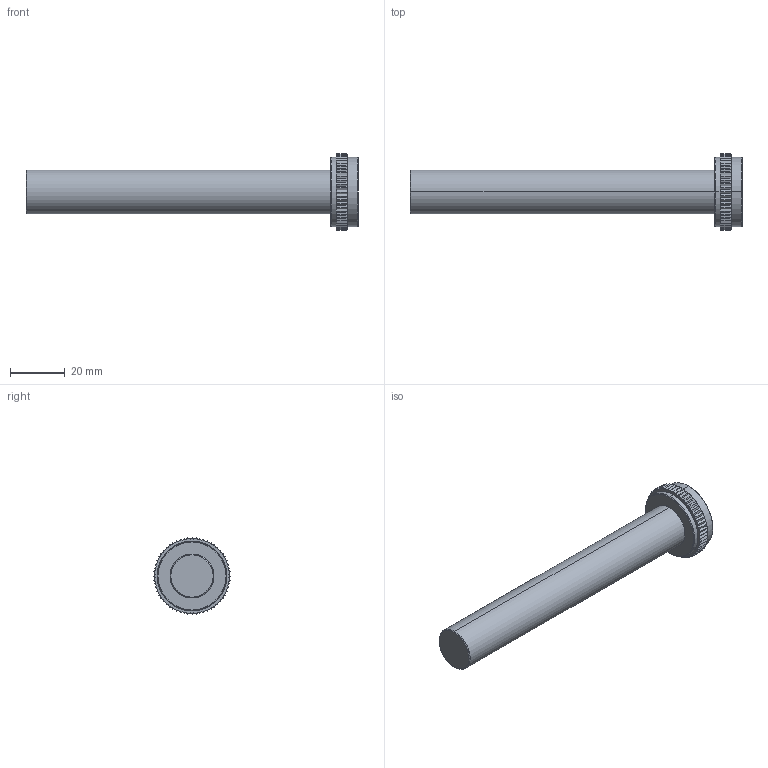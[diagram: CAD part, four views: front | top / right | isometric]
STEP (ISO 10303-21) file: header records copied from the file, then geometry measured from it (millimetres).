
FILE_DESCRIPTION(('Open CASCADE Model'),'2;1');
FILE_NAME('LS-HY-3-110','2026-10-15T18:22:13',('LumaSpec Vision'),('LumaSpec Vision'),'Open CASCADE STEP processor 7.8','Open CASCADE 7.8' ,'Unknown');
FILE_SCHEMA(('AUTOMOTIVE_DESIGN { 1 0 10303 214 1 1 1 1 }'));
Length unit declared in the file: millimetre
Products named in the file (260): Open CASCADE STEP translator 7.8 21; Open CASCADE STEP translator 7.8 21.1; Open CASCADE STEP translator 7.8 21.2; Open CASCADE STEP translator 7.8 21.3; Open CASCADE STEP translator 7.8 21.4; Open CASCADE STEP translator 7.8 21.5; Open CASCADE STEP translator 7.8 21.6; Open CASCADE STEP translator 7.8 21.7; Open CASCADE STEP translator 7.8 21.8; Open CASCADE STEP translator 7.8 21.9; Open CASCADE STEP translator 7.8 21.10; Open CASCADE STEP translator 7.8 21.11; Open CASCADE STEP translator 7.8 21.12; Open CASCADE STEP translator 7.8 21.13; Open CASCADE STEP translator 7.8 21.14; Open CASCADE STEP translator 7.8 21.15; Open CASCADE STEP translator 7.8 21.16; Open CASCADE STEP translator 7.8 21.17; Open CASCADE STEP translator 7.8 21.18; Open CASCADE STEP translator 7.8 21.19; Open CASCADE STEP translator 7.8 21.20; Open CASCADE STEP translator 7.8 21.21; Open CASCADE STEP translator 7.8 21.22; Open CASCADE STEP translator 7.8 21.23; Open CASCADE STEP translator 7.8 21.24; Open CASCADE STEP translator 7.8 21.25; Open CASCADE STEP translator 7.8 21.26; Open CASCADE STEP translator 7.8 21.27; Open CASCADE STEP translator 7.8 21.28; Open CASCADE STEP translator 7.8 21.29; Open CASCADE STEP translator 7.8 21.30; Open CASCADE STEP translator 7.8 21.31; Open CASCADE STEP translator 7.8 21.32; Open CASCADE STEP translator 7.8 21.33; Open CASCADE STEP translator 7.8 21.34; Open CASCADE STEP translator 7.8 21.35; Open CASCADE STEP translator 7.8 21.36; Open CASCADE STEP translator 7.8 21.37; Open CASCADE STEP translator 7.8 21.38; Open CASCADE STEP translator 7.8 21.39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
Assembly tree (259 placements, depth 2):
  Open CASCADE STEP translator 7.8 21
    Open CASCADE STEP translator 7.8 21.1
    Open CASCADE STEP translator 7.8 21.2
    Open CASCADE STEP translator 7.8 21.3
    Open CASCADE STEP translator 7.8 21.4
    Open CASCADE STEP translator 7.8 21.5
    Open CASCADE STEP translator 7.8 21.6
    Open CASCADE STEP translator 7.8 21.7
    Open CASCADE STEP translator 7.8 21.8
    Open CASCADE STEP translator 7.8 21.9
    Open CASCADE STEP translator 7.8 21.10
    Open CASCADE STEP translator 7.8 21.11
    Open CASCADE STEP translator 7.8 21.12
    Open CASCADE STEP translator 7.8 21.13
    Open CASCADE STEP translator 7.8 21.14
    Open CASCADE STEP translator 7.8 21.15
    Open CASCADE STEP translator 7.8 21.16
    Open CASCADE STEP translator 7.8 21.17
    Open CASCADE STEP translator 7.8 21.18
    Open CASCADE STEP translator 7.8 21.19
    Open CASCADE STEP translator 7.8 21.20
    Open CASCADE STEP translator 7.8 21.21
    Open CASCADE STEP translator 7.8 21.22
    Open CASCADE STEP translator 7.8 21.23
    Open CASCADE STEP translator 7.8 21.24
    Open CASCADE STEP translator 7.8 21.25
    Open CASCADE STEP translator 7.8 21.26
    Open CASCADE STEP translator 7.8 21.27
    Open CASCADE STEP translator 7.8 21.28
    Open CASCADE STEP translator 7.8 21.29
    Open CASCADE STEP translator 7.8 21.30
    Open CASCADE STEP translator 7.8 21.31
    Open CASCADE STEP translator 7.8 21.32
    Open CASCADE STEP translator 7.8 21.33
    Open CASCADE STEP translator 7.8 21.34
    Open CASCADE STEP translator 7.8 21.35
    Open CASCADE STEP translator 7.8 21.36
    Open CASCADE STEP translator 7.8 21.37
    Open CASCADE STEP translator 7.8 21.38
    Open CASCADE STEP translator 7.8 21.39
    Open CASCADE STEP translator 7.8 21.40
    Open CASCADE STEP translator 7.8 21.41
    Open CASCADE STEP translator 7.8 21.42
    Open CASCADE STEP translator 7.8 21.43
    Open CASCADE STEP translator 7.8 21.44
    Open CASCADE STEP translator 7.8 21.45
    Open CASCADE STEP translator 7.8 21.46
    Open CASCADE STEP translator 7.8 21.47
    Open CASCADE STEP translator 7.8 21.48
    Open CASCADE STEP translator 7.8 21.49
    Open CASCADE STEP translator 7.8 21.50
    Open CASCADE STEP translator 7.8 21.51
    Open CASCADE STEP translator 7.8 21.52
    Open CASCADE STEP translator 7.8 21.53
    Open CASCADE STEP translator 7.8 21.54
    Open CASCADE STEP translator 7.8 21.55
    Open CASCADE STEP translator 7.8 21.56
    Open CASCADE STEP translator 7.8 21.57
    Open CASCADE STEP translator 7.8 21.58
    Open CASCADE STEP translator 7.8 21.59
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Bounding box: 121 x 28 x 28 mm (x, y, z)
Surface area: 7616.3 mm2 (no closed solid volume)
Topology: 0 solids, 259 shells, 259 faces, 1688 edges, 1688 vertices
Faces by surface type: revolution 134, bspline 125
Entity records: 32850 total; most frequent: CARTESIAN_POINT 10398, B_SPLINE_CURVE_WITH_KNOTS 2360, DIRECTION 2072, ORIENTED_EDGE 1688, EDGE_CURVE 1688, VERTEX_POINT 1688, SURFACE_CURVE 1688, PCURVE 1688
